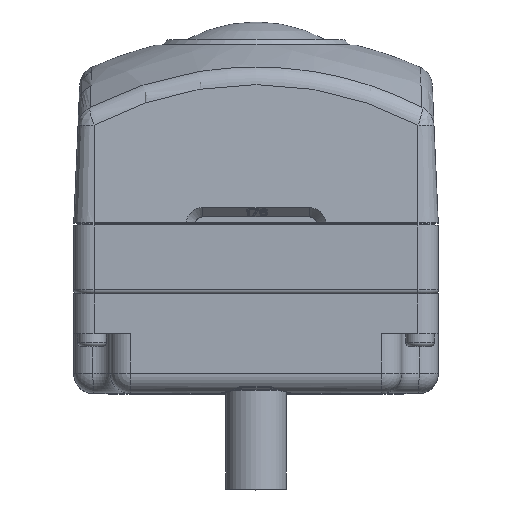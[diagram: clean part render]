
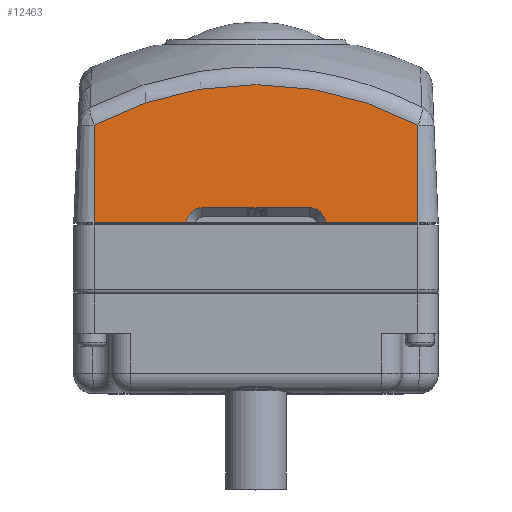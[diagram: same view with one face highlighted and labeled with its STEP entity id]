
A CAD part, top view. The second image highlights one B-rep face of the part: STEP entity #12463.
In plain terms, the highlighted planar face has unit normal (0, 0.044, 0.999).
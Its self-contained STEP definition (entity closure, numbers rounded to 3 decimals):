
#2465=DIRECTION('',(1.,0.,0.));
#2466=VECTOR('',#2465,11.37);
#2467=CARTESIAN_POINT('',(8.63,4.7,22.5));
#2468=LINE('',#2467,#2466);
#3205=DIRECTION('',(0.,0.999,-0.044));
#3206=VECTOR('',#3205,12.051);
#3207=CARTESIAN_POINT('',(20.,4.7,22.5));
#3208=LINE('',#3207,#3206);
#3222=CARTESIAN_POINT('',(-8.63,4.7,22.5));
#3223=CARTESIAN_POINT('',(-8.605,4.904,22.491));
#3224=CARTESIAN_POINT('',(-8.502,5.289,22.474));
#3225=CARTESIAN_POINT('',(-8.173,5.823,22.451));
#3226=CARTESIAN_POINT('',(-7.713,6.231,22.433));
#3227=CARTESIAN_POINT('',(-7.144,6.492,22.422));
#3228=CARTESIAN_POINT('',(-6.751,6.55,22.419));
#3229=CARTESIAN_POINT('',(-6.546,6.549,22.419));
#3231=DIRECTION('',(1.,0.,0.));
#3232=VECTOR('',#3231,11.37);
#3233=CARTESIAN_POINT('',(-20.,4.7,22.5));
#3234=LINE('',#3233,#3232);
#3235=CARTESIAN_POINT('',(0.,-20.769,23.612));
#3236=DIRECTION('',(0.,0.044,0.999));
#3237=DIRECTION('',(0.47,0.882,-0.038));
#3238=AXIS2_PLACEMENT_3D('',#3235,#3236,#3237);
#3240=CARTESIAN_POINT('',(6.546,6.549,22.419));
#3241=CARTESIAN_POINT('',(6.751,6.55,22.419));
#3242=CARTESIAN_POINT('',(7.145,6.491,22.422));
#3243=CARTESIAN_POINT('',(7.713,6.231,22.433));
#3244=CARTESIAN_POINT('',(8.174,5.823,22.451));
#3245=CARTESIAN_POINT('',(8.501,5.29,22.474));
#3246=CARTESIAN_POINT('',(8.605,4.905,22.491));
#3247=CARTESIAN_POINT('',(8.63,4.7,22.5));
#3257=DIRECTION('',(1.,0.,0.));
#3258=VECTOR('',#3257,13.092);
#3259=CARTESIAN_POINT('',(-6.546,6.549,22.419));
#3260=LINE('',#3259,#3258);
#4188=DIRECTION('',(0.,-0.999,0.044));
#4189=VECTOR('',#4188,12.051);
#4190=CARTESIAN_POINT('',(-20.,16.74,21.974));
#4191=LINE('',#4190,#4189);
#6740=CARTESIAN_POINT('',(-20.,4.7,22.5));
#6741=CARTESIAN_POINT('',(-8.63,4.7,22.5));
#6742=VERTEX_POINT('',#6740);
#6743=VERTEX_POINT('',#6741);
#6747=CARTESIAN_POINT('',(-6.546,6.549,22.419));
#6749=VERTEX_POINT('',#6747);
#6750=CARTESIAN_POINT('',(-20.,16.74,21.974));
#6751=VERTEX_POINT('',#6750);
#6752=CARTESIAN_POINT('',(20.,16.74,21.974));
#6753=VERTEX_POINT('',#6752);
#6754=CARTESIAN_POINT('',(20.,4.7,22.5));
#6755=VERTEX_POINT('',#6754);
#6756=CARTESIAN_POINT('',(8.63,4.7,22.5));
#6757=VERTEX_POINT('',#6756);
#6758=VERTEX_POINT('',#3240);
#12444=CARTESIAN_POINT('',(0.,13.23,
22.128));
#12445=DIRECTION('',(0.,0.044,0.999));
#12446=DIRECTION('',(-1.,0.,0.));
#12447=AXIS2_PLACEMENT_3D('',#12444,#12445,#12446);
#12448=PLANE('',#12447);
#12450=ORIENTED_EDGE('',*,*,#12449,.F.);
#12451=ORIENTED_EDGE('',*,*,#10965,.F.);
#12453=ORIENTED_EDGE('',*,*,#12452,.F.);
#12454=ORIENTED_EDGE('',*,*,#12437,.F.);
#12455=ORIENTED_EDGE('',*,*,#12369,.F.);
#12456=ORIENTED_EDGE('',*,*,#11130,.F.);
#12458=ORIENTED_EDGE('',*,*,#12457,.F.);
#12460=ORIENTED_EDGE('',*,*,#12459,.F.);
#12461=EDGE_LOOP('',(#12450,#12451,#12453,#12454,#12455,#12456,#12458,#12460));
#12462=FACE_OUTER_BOUND('',#12461,.F.);
#12463=ADVANCED_FACE('',(#12462),#12448,.T.);
#3230=B_SPLINE_CURVE_WITH_KNOTS('',3,(#3222,#3223,#3224,#3225,#3226,#3227,#3228,
#3229),.UNSPECIFIED.,.F.,.F.,(4,1,1,1,1,4),(0.,0.2,0.4,0.6,0.8,1.),
.UNSPECIFIED.);
#3239=CIRCLE('',#3238,42.539);
#3248=B_SPLINE_CURVE_WITH_KNOTS('',3,(#3240,#3241,#3242,#3243,#3244,#3245,#3246,
#3247),.UNSPECIFIED.,.F.,.F.,(4,1,1,1,1,4),(0.,0.2,0.4,0.6,0.8,1.),
.UNSPECIFIED.);
#10965=EDGE_CURVE('',#6742,#6743,#3234,.T.);
#11130=EDGE_CURVE('',#6757,#6755,#2468,.T.);
#12369=EDGE_CURVE('',#6755,#6753,#3208,.T.);
#12437=EDGE_CURVE('',#6753,#6751,#3239,.T.);
#12449=EDGE_CURVE('',#6743,#6749,#3230,.T.);
#12452=EDGE_CURVE('',#6751,#6742,#4191,.T.);
#12457=EDGE_CURVE('',#6758,#6757,#3248,.T.);
#12459=EDGE_CURVE('',#6749,#6758,#3260,.T.);
